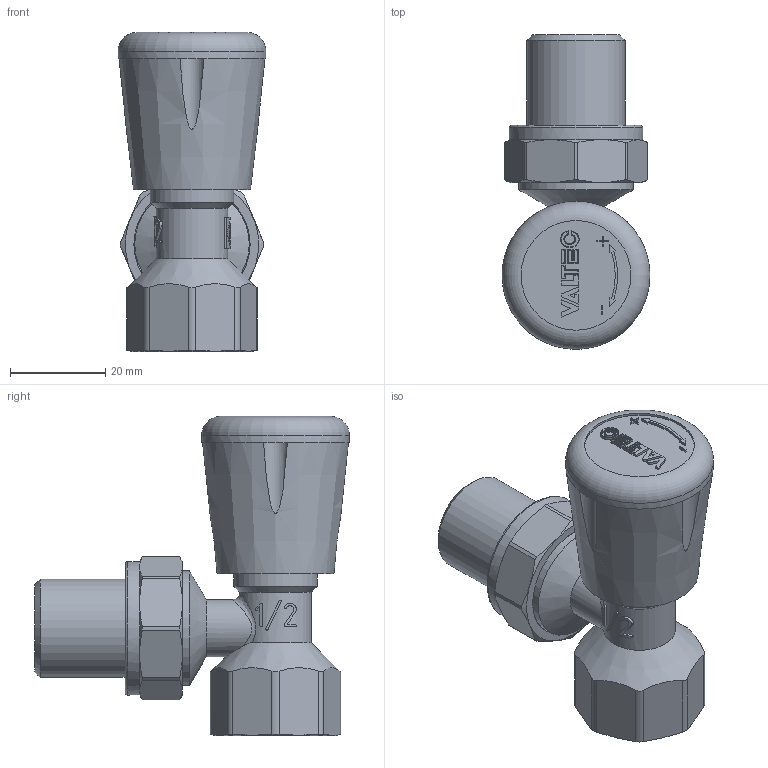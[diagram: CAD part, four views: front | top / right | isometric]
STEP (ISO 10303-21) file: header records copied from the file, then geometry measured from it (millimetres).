
FILE_DESCRIPTION(('STEP AP203'), '1');
FILE_NAME('VT.017.N.04', '2024-06-26T12:27:57', ('User'), ('Vesta'), 'C3D Converter', 'C3D Toolkit', '');
FILE_SCHEMA(('CONFIG_CONTROL_DESIGN'));
Length unit declared in the file: millimetre
Products named in the file (1): ВР.493176.001.000 СБ
Bounding box: 31 x 66 x 66.9 mm (x, y, z)
Volume: 45656.4 mm3; surface area: 11602.6 mm2
Topology: 1 solids, 1 shells, 266 faces, 695 edges, 456 vertices
Faces by surface type: plane 161, extrusion 42, cylinder 39, cone 17, bspline 5, torus 2
Full cylindrical faces by diameter (mm): 12 x1, 15 x1, 17.5 x1, 18.632 x1, 20.6 x1, 20.9 x1, 23 x1, 24 x1, 28 x1, 31 x1
Entity records: 12044 total; most frequent: CARTESIAN_POINT 5853, ORIENTED_EDGE 1358, DIRECTION 1058, EDGE_CURVE 679, VERTEX_POINT 482, VECTOR 442, LINE 400, AXIS2_PLACEMENT_3D 308
